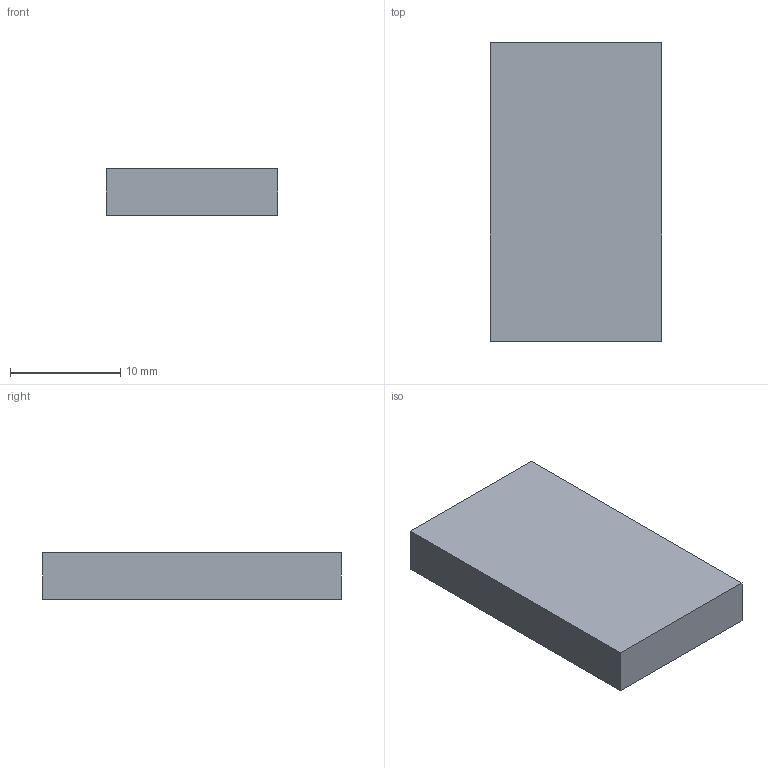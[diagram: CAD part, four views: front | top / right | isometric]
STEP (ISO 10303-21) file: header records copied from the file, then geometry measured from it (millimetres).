
FILE_DESCRIPTION(('Open CASCADE Model'),'2;1');
FILE_NAME('Open CASCADE Shape Model','2026-10-29T14:13:48',('Author'),( 'Open CASCADE'),'Open CASCADE STEP processor 7.9','Open CASCADE 7.9' ,'Unknown');
FILE_SCHEMA(('AUTOMOTIVE_DESIGN { 1 0 10303 214 1 1 1 1 }'));
Length unit declared in the file: millimetre
Products named in the file (1): Open CASCADE STEP translator 7.9 5
Bounding box: 15.5 x 27 x 4.2 mm (x, y, z)
Volume: 1757.7 mm3; surface area: 1194 mm2
Topology: 1 solids, 1 shells, 6 faces, 12 edges, 8 vertices
Faces by surface type: plane 6
Entity records: 322 total; most frequent: CARTESIAN_POINT 51, DIRECTION 50, LINE 36, VECTOR 36, ORIENTED_EDGE 24, PCURVE 24, DEFINITIONAL_REPRESENTATION 24, EDGE_CURVE 12
